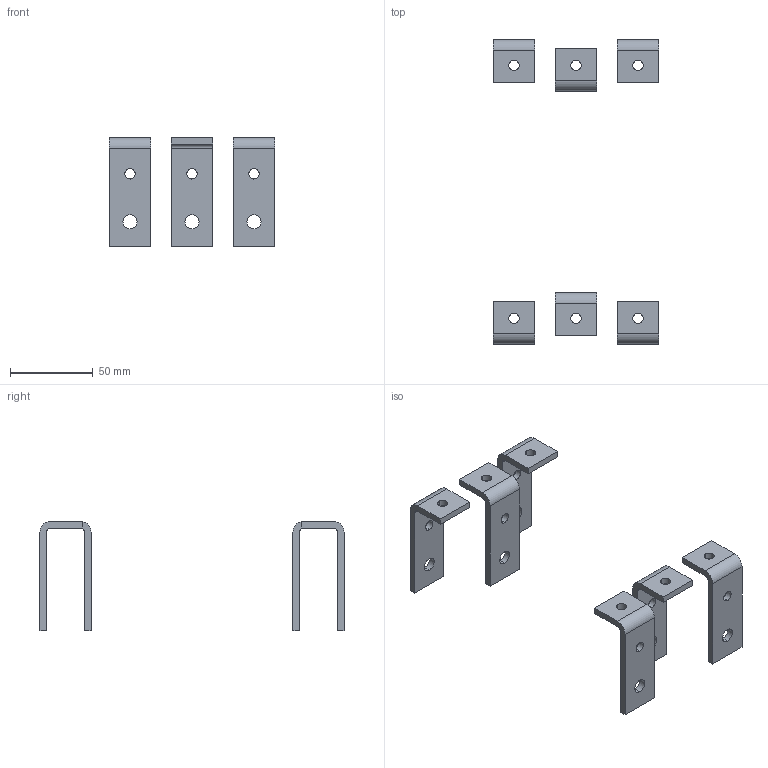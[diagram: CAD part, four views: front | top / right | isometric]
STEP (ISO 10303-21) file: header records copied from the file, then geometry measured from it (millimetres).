
FILE_DESCRIPTION (( 'STEP AP214' ), '1' );
FILE_NAME ('ÂÀ57-35 Âûâîäû äëÿ âòû÷íîé ïàíåëè çàäíåå ïðèñîåäèíåíèå.STEP', '2023-07-14T07:54:20', ( '' ), ( '' ), 'SwSTEP 2.0', 'SolidWorks 2018', '' );
FILE_SCHEMA (( 'AUTOMOTIVE_DESIGN' ));
Length unit declared in the file: millimetre
Products named in the file (1): ÂÀ57-35 Âûâîäû äëÿ âòû÷íîé ïàíåëè çàäíåå ïðèñîåäèíåíèå
Bounding box: 100 x 184 x 66 mm (x, y, z)
Volume: 48783 mm3; surface area: 31313.7 mm2
Topology: 6 solids, 6 shells, 96 faces, 252 edges, 168 vertices
Faces by surface type: cylinder 48, plane 48
Entity records: 4199 total; most frequent: DIRECTION 542, CARTESIAN_POINT 517, ORIENTED_EDGE 504, EDGE_CURVE 252, AXIS2_PLACEMENT_3D 193, VERTEX_POINT 168, LINE 156, VECTOR 156
